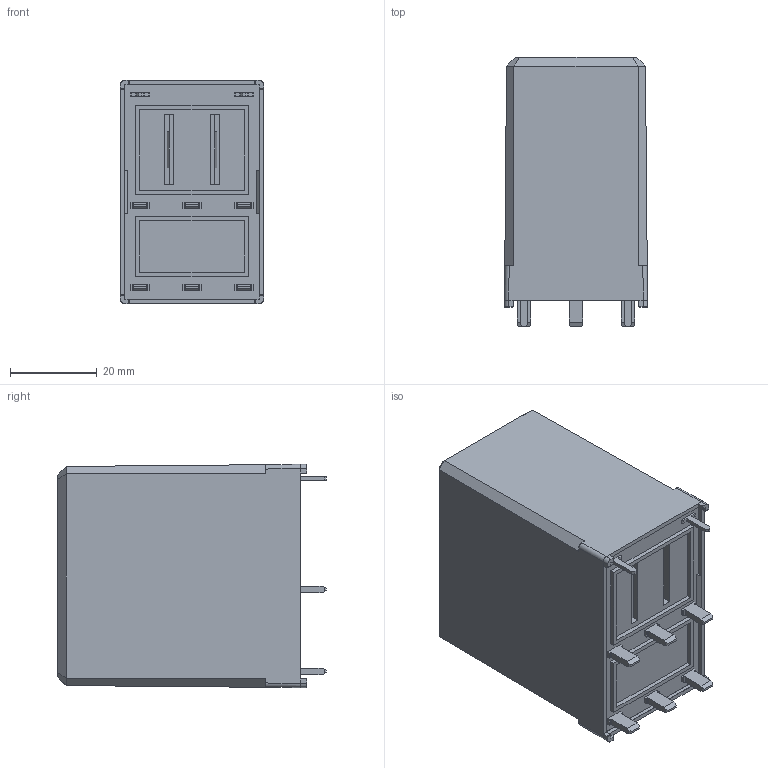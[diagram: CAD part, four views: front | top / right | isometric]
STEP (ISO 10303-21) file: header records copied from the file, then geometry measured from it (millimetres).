
FILE_DESCRIPTION(('STEP AP214'),'2;1');
FILE_NAME('6723 corsa 3 --- catalogo.stp','2012-07-20T08:26:27',(''),(''),'2007.1.106','THINKDESIGN','');
FILE_SCHEMA(('AUTOMOTIVE_DESIGN'));
Length unit declared in the file: millimetre
Products named in the file (1): top
Bounding box: 33 x 62 x 51.5 mm (x, y, z)
Surface area: 14086.6 mm2 (no closed solid volume)
Topology: 0 solids, 0 shells, 261 faces, 1405 edges, 1406 vertices
Faces by surface type: plane 218, cylinder 34, bspline 9
Full cylindrical faces by diameter (mm): 1.5 x2
Entity records: 12619 total; most frequent: CARTESIAN_POINT 4184, DIRECTION 1835, COMPOSITE_CURVE_SEGMENT 1404, TRIMMED_CURVE 1265, VECTOR 1201, LINE 1201, AXIS2_PLACEMENT_3D 317, STYLED_ITEM 263
